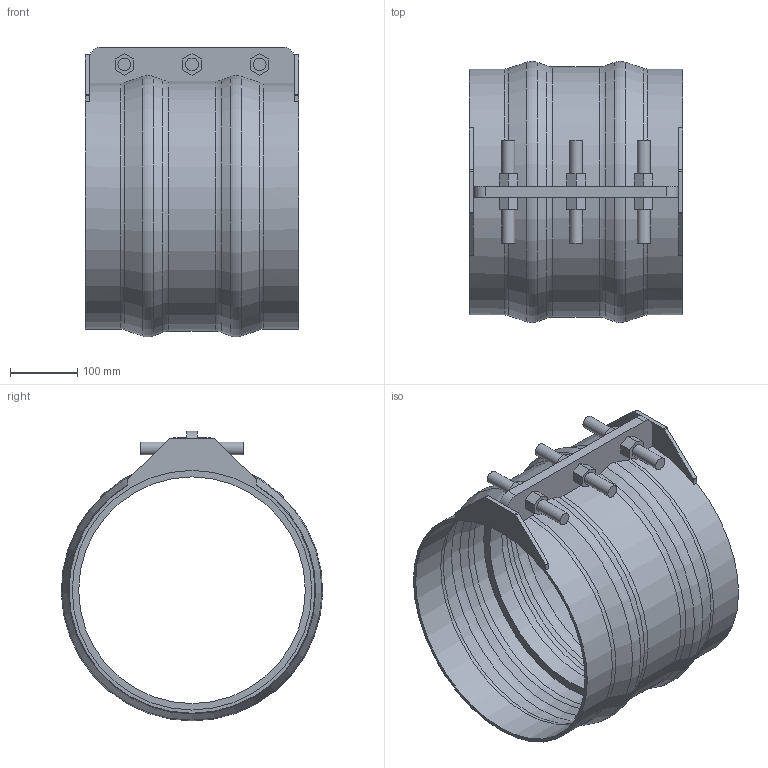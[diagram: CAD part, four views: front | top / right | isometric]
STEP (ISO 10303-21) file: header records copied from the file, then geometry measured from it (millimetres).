
FILE_DESCRIPTION(/* description */ ('VIC RESTRAINED COUPLING STYLE 233 (FLEX) (BRD)','CAx-IF Rec.Pracs.---Representation and Presentation of Product Manufacturing Information (PMI)---4.0---2014-10-13'),/* implementation_level */ '2;1');
FILE_NAME(/* name */ 'C:\Users\Vjadhav\Desktop\CAD for Inventor\Test for STEP\Vivek\Adsk_Inventor_Bolted Sleeve_iParts\STEP\Victaulic_VBSP_Coupling Flexible Restrained_Style 233 (BRD)\Victaulic_VBSP_Coupling Flexible Restrained_Style 233 (BRD)_200psi_14 (350).stp',/* time_stamp */ '2020-09-24T12:28:51+06:00',/* author */ ('Vjadhav'),/* organization */ ('Victaulic'),/* preprocessor_version */ 'ST-DEVELOPER v17.2',/* originating_system */ 'Autodesk Inventor 2019',/* authorisation */ '');
FILE_SCHEMA (('AP242_MANAGED_MODEL_BASED_3D_ENGINEERING_MIM_LF { 1 0 10303 442 1 1 4 }'));
Length unit declared in the file: inch
Products named in the file (1): Style_233_Type_2_200psi-14.0
Bounding box: 317.5 x 387.9 x 430.23 mm (x, y, z)
Volume: 2565053.3 mm3; surface area: 867283.4 mm2
Topology: 1 solids, 1 shells, 111 faces, 301 edges, 206 vertices
Faces by surface type: plane 67, cylinder 24, torus 12, cone 8
Full cylindrical faces by diameter (mm): 19.05 x6, 336.55 x1, 355.6 x2, 361.95 x2
Entity records: 3858 total; most frequent: CARTESIAN_POINT 732, DIRECTION 633, ORIENTED_EDGE 602, EDGE_CURVE 301, AXIS2_PLACEMENT_3D 227, VERTEX_POINT 206, LINE 179, VECTOR 179
